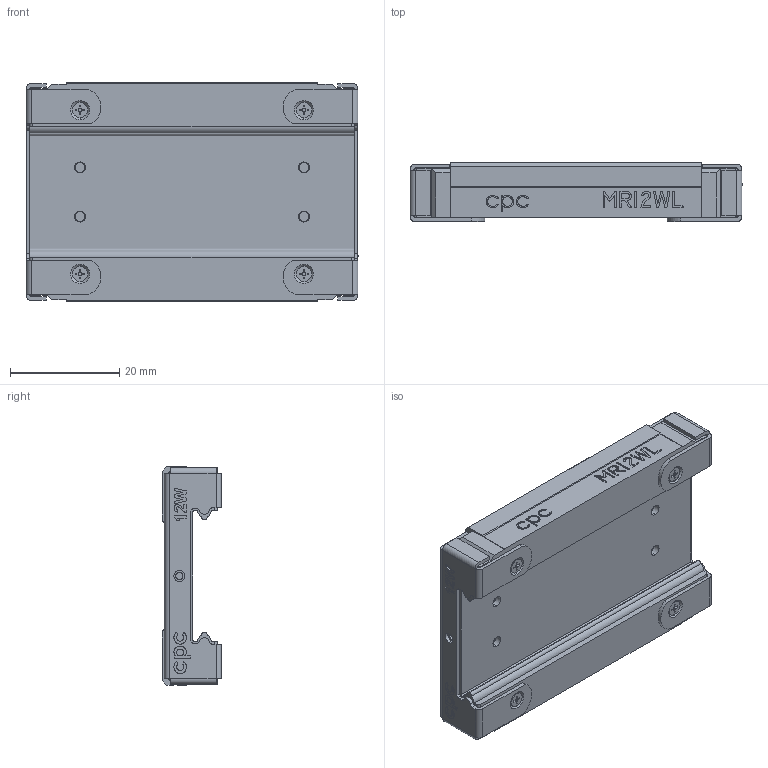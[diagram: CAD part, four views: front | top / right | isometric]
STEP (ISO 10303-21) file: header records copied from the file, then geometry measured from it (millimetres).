
FILE_DESCRIPTION (( 'STEP AP203' ), '1' );
FILE_NAME ('12WL-EE-EZ.STEP', '2009-07-30T08:34:41', ( 'cpc' ), ( '' ), 'SwSTEP 2.0', 'SolidWorks 2007', '' );
FILE_SCHEMA (( 'CONFIG_CONTROL_DESIGN' ));
Length unit declared in the file: millimetre
Products named in the file (5): M2x0.4-screw-2_預設_預設; 12WL-SS-ZZ-block(x1)_預設; 12WL-EE-EZ; screwM1.4_預設_預設; MR12W加強片-061001_預設
Assembly tree (11 placements, depth 2):
  12WL-EE-EZ
    M2x0.4-screw-2_預設_預設  x4
    MR12W加強片-061001_預設  x2
    12WL-SS-ZZ-block(x1)_預設
    screwM1.4_預設_預設  x4
Bounding box: 60.8 x 10.85 x 40 mm (x, y, z)
Volume: 17491.6 mm3; surface area: 11322.3 mm2
Topology: 11 solids, 11 shells, 1187 faces, 3157 edges, 2066 vertices
Faces by surface type: plane 513, bspline 436, cylinder 174, cone 64
Entity records: 41304 total; most frequent: CARTESIAN_POINT 21938, ORIENTED_EDGE 4474, DIRECTION 2735, EDGE_CURVE 2237, VERTEX_POINT 1472, VECTOR 1301, LINE 1301, EDGE_LOOP 915
